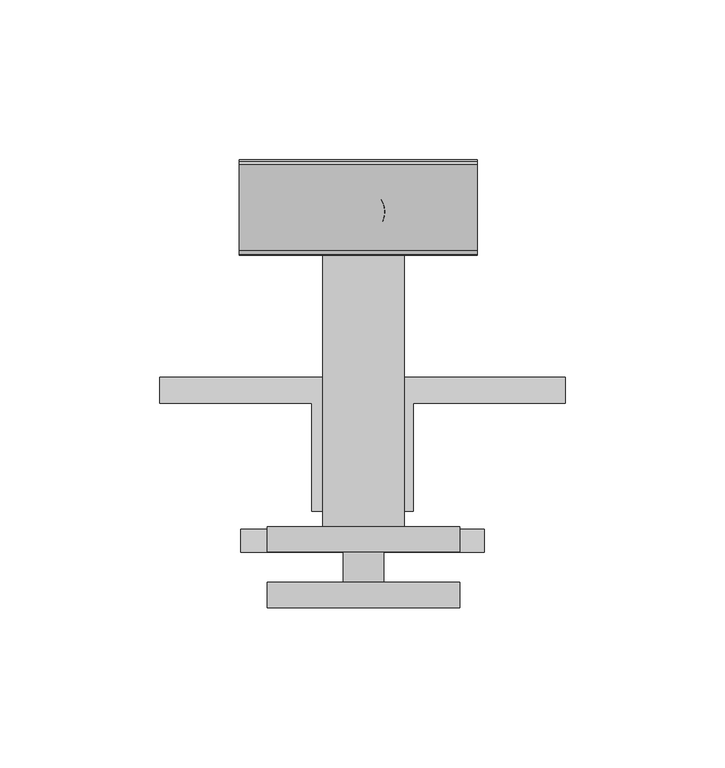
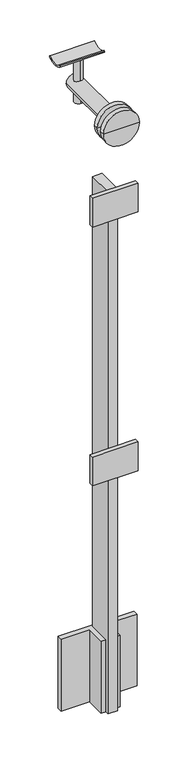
"""IFC4 building model written with IfcOpenShell, lengths in millimetres: proxy geometry, Baluster-End-Post-VIVA-STRUC-Top Mount-Stair : WELDED Fascia MOUNT STRUC_STAIR."""

from ifc_helpers import new_model, si_unit, point, frame, frame_2d, origin, place, context, project, spatial, polyline, circle_curve, trimmed, segment, composite_curve, outline, extrude, source, transform, mapped, element, save
from ifc_brep_helpers import plane_surface, cylinder_surface, advanced_brep


def building_element_proxy_f1f11727(model_context):
    return source(origin(), model_context, "Body", "SolidModel", [
        advanced_brep(
        [(30.4813346, -136.2128652, 232.9243555), (-29.8436654, -136.2128652, 232.9243555), (-6.0311654, -136.2128652, 232.9243555), (6.6688346, -136.2128652, 232.9243555), (30.4813346, -144.1503652, 232.9243555), (-29.8436654, -144.1503652, 232.9243555), (30.4813346, -118.7498509, 232.9243555), (-29.8436654, -118.7498509, 232.9243555), (-12.3811654, -118.7498509, 232.9243555), (13.0188346, -118.7498509, 232.9243555), (30.4813346, -126.6873509, 232.9243555), (-29.8436654, -126.6873509, 232.9243555), (0.3188346, -144.1503652, 232.9243555), (13.0188346, -6.3880939, 232.9243555), (-12.3811654, -6.3880939, 232.9243555), (0.3188346, -6.3880939, 232.9243555), (6.6688346, -126.6873509, 232.9243555), (-6.0311654, -126.6873509, 232.9243555)],
        [
            (0, 1, circle_curve(frame((0.3188346, -136.2128652, 232.9243555), z_axis=(0.0, 1.0, 0.0), x_axis=(-1.0, 0.0, 0.0)), 30.1625)),
            (1, 2),
            (2, 3, circle_curve(frame((0.3188346, -136.2128652, 232.9243555), z_axis=(0.0, -1.0, 0.0), x_axis=(-1.0, 0.0, 0.0)), 6.35)),
            (3, 0),
            (4, 5, circle_curve(frame((0.3188346, -144.1503652, 232.9243555), z_axis=(0.0, 1.0, 0.0), x_axis=(-1.0, 0.0, 0.0)), 30.1625)),
            (5, 1),
            (0, 4),
            (6, 7, circle_curve(frame((0.3188346, -118.7498509, 232.9243555), z_axis=(0.0, 1.0, 0.0), x_axis=(-1.0, 0.0, 0.0)), 30.1625)),
            (7, 8),
            (8, 9, circle_curve(frame((0.3188346, -118.7498509, 232.9243555), z_axis=(0.0, -1.0, 0.0), x_axis=(-1.0, 0.0, 0.0)), 12.7)),
            (9, 6),
            (10, 11, circle_curve(frame((0.3188346, -126.6873509, 232.9243555), z_axis=(0.0, 1.0, 0.0), x_axis=(-1.0, 0.0, 0.0)), 30.1625)),
            (11, 7),
            (6, 10),
            (5, 4, circle_curve(frame((0.3188346, -144.1503652, 232.9243555), z_axis=(0.0, 1.0, 0.0), x_axis=(-1.0, 0.0, 0.0)), 30.1625)),
            (0, 1, circle_curve(frame((0.3188346, -136.2128652, 232.9243555), z_axis=(0.0, -1.0, 0.0), x_axis=(-1.0, 0.0, 0.0)), 30.1625)),
            (12, 5),
            (4, 12),
            (13, 14, circle_curve(frame((0.3188346, -6.3880939, 232.9243555), z_axis=(0.0, 1.0, 0.0), x_axis=(-1.0, 0.0, 0.0)), 12.7)),
            (14, 15),
            (15, 13),
            (14, 13, circle_curve(frame((0.3188346, -6.3880939, 232.9243555), z_axis=(0.0, 1.0, 0.0), x_axis=(-1.0, 0.0, 0.0)), 12.7)),
            (8, 14),
            (13, 9),
            (8, 9, circle_curve(frame((0.3188346, -118.7498509, 232.9243555), z_axis=(0.0, 1.0, 0.0), x_axis=(-1.0, 0.0, 0.0)), 12.7)),
            (7, 6, circle_curve(frame((0.3188346, -118.7498509, 232.9243555), z_axis=(0.0, 1.0, 0.0), x_axis=(-1.0, 0.0, 0.0)), 30.1625)),
            (11, 10, circle_curve(frame((0.3188346, -126.6873509, 232.9243555), z_axis=(0.0, 1.0, 0.0), x_axis=(-1.0, 0.0, 0.0)), 30.1625)),
            (16, 17, circle_curve(frame((0.3188346, -126.6873509, 232.9243555), z_axis=(0.0, 1.0, 0.0), x_axis=(-1.0, 0.0, 0.0)), 6.35)),
            (17, 11),
            (10, 16),
            (17, 16, circle_curve(frame((0.3188346, -126.6873509, 232.9243555), z_axis=(0.0, 1.0, 0.0), x_axis=(-1.0, 0.0, 0.0)), 6.35)),
            (2, 17),
            (16, 3),
            (2, 3, circle_curve(frame((0.3188346, -136.2128652, 232.9243555), z_axis=(0.0, 1.0, 0.0), x_axis=(-1.0, 0.0, 0.0)), 6.35)),
        ],
        [
            plane_surface(frame((0.3188346, -136.2128652, 232.9243555), z_axis=(0.0, 1.0, 0.0), x_axis=(-1.0, 0.0, 0.0))),
            cylinder_surface(frame((0.3188346, -1650.6873509, 232.9243555), z_axis=(0.0, -1.0, 0.0), x_axis=(-1.0, 0.0, 0.0)), 30.1625),
            plane_surface(frame((0.3188346, -118.7498509, 232.9243555), z_axis=(0.0, 1.0, 0.0), x_axis=(-1.0, 0.0, 0.0))),
            plane_surface(frame((0.3188346, -144.1503652, 232.9243555), z_axis=(0.0, -1.0, 0.0), x_axis=(-1.0, 0.0, 0.0))),
            plane_surface(frame((0.3188346, -6.3880939, 232.9243555), z_axis=(0.0, 1.0, 0.0), x_axis=(-1.0, 0.0, 0.0))),
            cylinder_surface(frame((0.3188346, -1650.6873509, 232.9243555), z_axis=(0.0, -1.0, 0.0), x_axis=(-1.0, 0.0, 0.0)), 12.7),
            plane_surface(frame((0.3188346, -126.6873509, 232.9243555), z_axis=(0.0, -1.0, 0.0), x_axis=(-1.0, 0.0, 0.0))),
            cylinder_surface(frame((0.3188346, -1650.6873509, 232.9243555), z_axis=(0.0, -1.0, 0.0), x_axis=(-1.0, 0.0, 0.0)), 6.35),
        ],
        [
            (0, [[1, 2, 3, 4]]),
            (1, [[5, 6, -1, 7]]),
            (2, [[8, 9, 10, 11]]),
            (1, [[12, 13, -8, 14]]),
            (1, [[15, -7, 16, -6]]),
            (3, [[17, -5, 18]]),
            (3, [[-18, -15, -17]]),
            (4, [[19, 20, 21]]),
            (4, [[22, -21, -20]]),
            (5, [[-10, 23, -19, 24]]),
            (5, [[25, -24, -22, -23]]),
            (2, [[26, -11, -25, -9]]),
            (1, [[27, -14, -26, -13]]),
            (6, [[28, 29, -12, 30]]),
            (6, [[31, -30, -27, -29]]),
            (7, [[-3, 32, -28, 33]]),
            (7, [[34, -33, -31, -32]]),
            (0, [[-16, -4, -34, -2]]),
        ],
    ),
        extrude(outline(composite_curve([segment(trimmed(circle_curve(frame_2d((0.0, -7.0)), 7.0), [point((0.0, -14.0))], [point((0.0, 0.0))], False, "CARTESIAN"), True, "CONTINUOUS"), segment(trimmed(circle_curve(frame_2d((0.0, -7.0)), 7.0), [point((0.0, 0.0))], [point((0.0, -14.0))], False, "CARTESIAN"), True, "CONTINUOUS")], self_intersect=False)), frame((0.0962106, -27.20249, 206.023392), z_axis=(-0.0012664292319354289, 0.0, 0.9999991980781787), x_axis=(-0.9999991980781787, 0.0, -0.0012664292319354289)), (0.0, 0.0, 1.0), 75.97),
        extrude(outline(composite_curve([segment(polyline([(5.2466064, -13.9247915), (4.2292193, -14.9511811)]), True, "CONTINUOUS"), segment(trimmed(circle_curve(frame_2d((3.1638974, -13.8952033)), 1.5), [point((4.2292193, -14.9511811))], [point((2.0329757, -14.8806047))], False, "CARTESIAN"), True, "CONTINUOUS"), segment(trimmed(circle_curve(frame_2d((18.6575251, -0.3952033)), 22.05), [point((2.0329757, -14.8806047))], [point((2.0329757, 14.0901982))], False, "CARTESIAN"), True, "CONTINUOUS"), segment(trimmed(circle_curve(frame_2d((3.1638974, 13.1047967)), 1.5), [point((2.0329757, 14.0901982))], [point((4.2292193, 14.1607746))], False, "CARTESIAN"), True, "CONTINUOUS"), segment(polyline([(4.2292193, 14.1607746), (5.2466064, 13.134385)]), True, "CONTINUOUS"), segment(trimmed(circle_curve(frame_2d((18.6575251, -0.3952033)), 19.05), [point((5.2466064, 13.134385))], [point((5.2466064, -13.9247915))], True, "CARTESIAN"), True, "CONTINUOUS")], self_intersect=False)), frame((35.8856441, -18.4752577, 285.4122068), z_axis=(-0.9999999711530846, 0.0, 0.0002401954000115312), x_axis=(0.0002401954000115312, 0.0, 0.9999999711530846)), (0.0, 0.0, 1.0), 74.5229187),
        extrude(outline(polyline([(-38.1007192, -126.6869934), (-38.1007192, -119.5749934), (38.1007192, -119.5749934), (38.1007192, -126.6869934), (-38.1007192, -126.6869934)])), frame((0.0, 0.0, 61.2476928), z_axis=(0.0, 0.0, 1.0), x_axis=(1.0, 0.0, 0.0)), (0.0, 0.0, 1.0), 50.8),
        extrude(outline(polyline([(-38.1007192, -126.6869934), (-38.1007192, -119.5749934), (38.1007192, -119.5749934), (38.1007192, -126.6869934), (-38.1007192, -126.6869934)])), frame((0.0, 0.0, -395.9523072), z_axis=(0.0, 0.0, 1.0), x_axis=(1.0, 0.0, 0.0)), (0.0, 0.0, 1.0), 50.8),
        extrude(outline(polyline([(-7.9375, -113.7143584), (-15.9385, -113.7143584), (-15.9385, -79.9323584), (-63.4980216, -79.9323584), (-63.4980216, -71.8043584), (-7.9375, -71.8043584), (-7.9375, -113.7143584)])), frame((0.0, 0.0, -813.4521072), z_axis=(0.0, 0.0, 1.0), x_axis=(1.0, 0.0, 0.0)), (0.0, 0.0, 1.0), 127.0),
        extrude(outline(polyline([(7.9375, -113.7143584), (7.9375, -71.8043584), (63.4980216, -71.8043584), (63.4980216, -79.9323584), (15.9385, -79.9323584), (15.9385, -113.7143584), (7.9375, -113.7143584)])), frame((0.0, 0.0, -813.4521072), z_axis=(0.0, 0.0, 1.0), x_axis=(1.0, 0.0, 0.0)), (0.0, 0.0, 1.0), 127.0),
        extrude(outline(polyline([(-7.9375, -119.5749934), (-7.9375, -75.1249934), (7.9375, -75.1249934), (7.9375, -119.5749934), (-7.9375, -119.5749934)])), frame((0.0, 0.0, -813.4521072), z_axis=(0.0, 0.0, 1.0), x_axis=(1.0, 0.0, 0.0)), (0.0, 0.0, 1.0), 922.0866373),
    ])


if __name__ == "__main__":
    model = new_model("IFC4")
    model_context = context("Model", 3, world=origin())
    ifc_project = project(units=[si_unit("LENGTHUNIT", "METRE", prefix="MILLI")], contexts=[model_context])
    site = spatial("IfcSite", under=ifc_project)
    building = spatial("IfcBuilding", under=site)
    placement = place(None, origin())
    building_element_proxy_shape = building_element_proxy_f1f11727(model_context)
    element("IfcBuildingElementProxy", 1, Name="Baluster-End-Post-VIVA-STRUC-Top Mount-Stair : WELDED Fascia MOUNT STRUC_STAIR", ObjectType="Baluster-End-Post-VIVA-STRUC-Top Mount-Stair : WELDED Fascia MOUNT STRUC_STAIR", at=placement, inside=building, context=model_context, shape_type="MappedRepresentation", body=[
        mapped(building_element_proxy_shape, transform((0.0, 0.0, 0.0), x_axis=(1.0, 0.0, 0.0), y_axis=(0.0, 1.0, 0.0), z_axis=(0.0, 0.0, 1.0))),
    ])
    save(model, "model.ifc")
